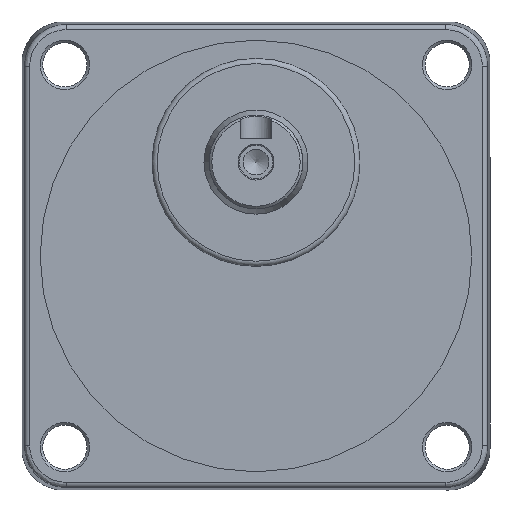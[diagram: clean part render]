
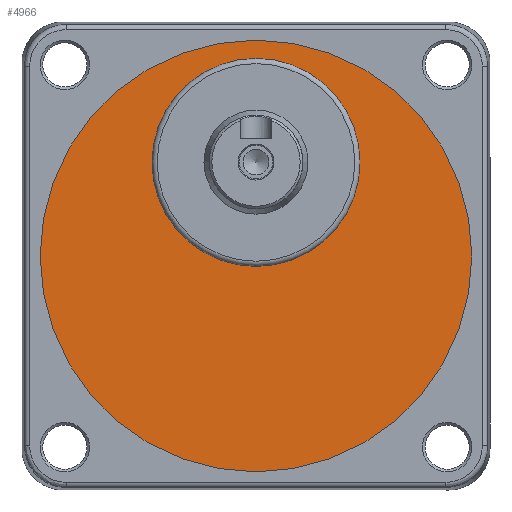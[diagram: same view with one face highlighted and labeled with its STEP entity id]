
A CAD part, front view. The second image highlights one B-rep face of the part: STEP entity #4966.
In plain terms, the highlighted planar face has unit normal (0, -1, 0).
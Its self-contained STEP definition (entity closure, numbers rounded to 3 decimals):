
#4305=CARTESIAN_POINT('',(20.0,-36.5,18.));
#4306=VERTEX_POINT('',#4305);
#4307=CARTESIAN_POINT('',(0.,-36.5,18.0));
#4308=DIRECTION('',(0.0,1.0,0.0));
#4309=DIRECTION('',(-1.0,0.0,0.0));
#4310=AXIS2_PLACEMENT_3D('',#4307,#4308,#4309);
#4311=CIRCLE('',#4310,20.0);
#4312=EDGE_CURVE('',#4306,#4306,#4311,.T.);
#4940=CARTESIAN_POINT('',(41.5,-36.5,0.));
#4941=VERTEX_POINT('',#4940);
#4942=CARTESIAN_POINT('',(0.0,-36.5,0.0));
#4943=DIRECTION('',(0.0,-1.0,0.0));
#4944=DIRECTION('',(-1.0,0.0,0.0));
#4945=AXIS2_PLACEMENT_3D('',#4942,#4943,#4944);
#4946=CIRCLE('',#4945,41.5);
#4947=EDGE_CURVE('',#4941,#4941,#4946,.T.);
#4955=CARTESIAN_POINT('',(0.0,-36.5,0.0));
#4956=DIRECTION('',(0.0,1.0,0.0));
#4957=DIRECTION('',(0.0,0.0,1.0));
#4958=AXIS2_PLACEMENT_3D('',#4955,#4956,#4957);
#4959=PLANE('',#4958);
#4960=ORIENTED_EDGE('',*,*,#4947,.T.);
#4961=EDGE_LOOP('',(#4960));
#4962=FACE_OUTER_BOUND('',#4961,.T.);
#4963=ORIENTED_EDGE('',*,*,#4312,.T.);
#4964=EDGE_LOOP('',(#4963));
#4965=FACE_BOUND('',#4964,.T.);
#4966=ADVANCED_FACE('',(#4962,#4965),#4959,.F.);
